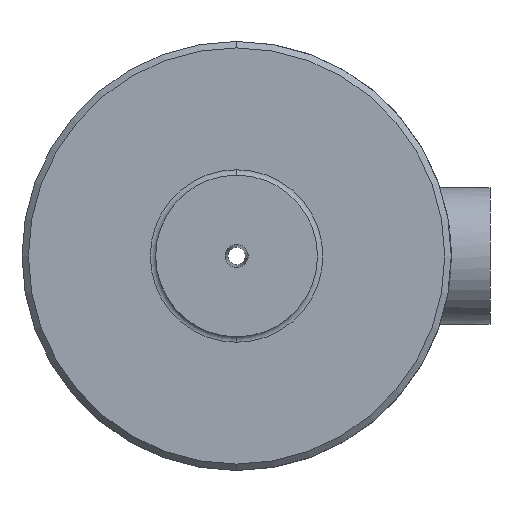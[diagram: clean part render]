
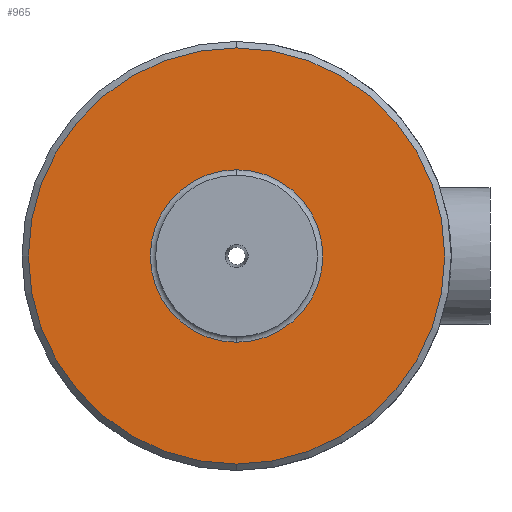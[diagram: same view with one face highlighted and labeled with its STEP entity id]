
A CAD part, front view. The second image highlights one B-rep face of the part: STEP entity #965.
In plain terms, the highlighted planar face has unit normal (0, -1, 0).
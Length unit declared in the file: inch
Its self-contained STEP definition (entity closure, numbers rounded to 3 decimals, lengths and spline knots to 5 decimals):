
#45 = VERTEX_POINT ( 'NONE', #1120 ) ;
#91 = EDGE_CURVE ( 'NONE', #93, #45, #1273, .T. ) ;
#93 = VERTEX_POINT ( 'NONE', #1278 ) ;
#147 = CARTESIAN_POINT ( 'NONE',  ( 0., -1., -0.4 ) ) ;
#152 = CARTESIAN_POINT ( 'NONE',  ( 0., -1., 0.4 ) ) ;
#158 = DIRECTION ( 'NONE',  ( 0., 0., 1. ) ) ;
#159 = DIRECTION ( 'NONE',  ( 0., 1., 0. ) ) ;
#160 = CARTESIAN_POINT ( 'NONE',  ( 0., -1., 0. ) ) ;
#161 = AXIS2_PLACEMENT_3D ( 'NONE', #160, #159, #158 ) ;
#162 = CIRCLE ( 'NONE', #161, 0.4 ) ;
#407 = DIRECTION ( 'NONE',  ( 0., 0., -1. ) ) ;
#408 = DIRECTION ( 'NONE',  ( 0., -1., 0. ) ) ;
#409 = CARTESIAN_POINT ( 'NONE',  ( 0.965, -1., 0. ) ) ;
#410 = AXIS2_PLACEMENT_3D ( 'NONE', #409, #408, #407 ) ;
#412 = PLANE ( 'NONE',  #410 ) ;
#416 = FACE_OUTER_BOUND ( 'NONE', #754, .T. ) ;
#417 = FACE_BOUND ( 'NONE', #966, .T. ) ;
#452 = DIRECTION ( 'NONE',  ( 0., 0., 1. ) ) ;
#453 = DIRECTION ( 'NONE',  ( 0., 1., 0. ) ) ;
#454 = CARTESIAN_POINT ( 'NONE',  ( 0., -1., 0. ) ) ;
#455 = AXIS2_PLACEMENT_3D ( 'NONE', #454, #453, #452 ) ;
#456 = CIRCLE ( 'NONE', #455, 0.4 ) ;
#492 = DIRECTION ( 'NONE',  ( 0., 0., 1. ) ) ;
#493 = DIRECTION ( 'NONE',  ( 0., 1., 0. ) ) ;
#494 = CARTESIAN_POINT ( 'NONE',  ( 0., -1., 0. ) ) ;
#495 = AXIS2_PLACEMENT_3D ( 'NONE', #494, #493, #492 ) ;
#496 = CIRCLE ( 'NONE', #495, 0.965 ) ;
#621 = EDGE_CURVE ( 'NONE', #628, #625, #162, .T. ) ;
#625 = VERTEX_POINT ( 'NONE', #152 ) ;
#628 = VERTEX_POINT ( 'NONE', #147 ) ;
#754 = EDGE_LOOP ( 'NONE', ( #755, #1190 ) ) ;
#755 = ORIENTED_EDGE ( 'NONE', *, *, #91, .F. ) ;
#965 = ADVANCED_FACE ( 'NONE', ( #417, #416 ), #412, .T. ) ;
#966 = EDGE_LOOP ( 'NONE', ( #967, #975 ) ) ;
#967 = ORIENTED_EDGE ( 'NONE', *, *, #976, .T. ) ;
#975 = ORIENTED_EDGE ( 'NONE', *, *, #621, .T. ) ;
#976 = EDGE_CURVE ( 'NONE', #625, #628, #456, .T. ) ;
#1031 = EDGE_CURVE ( 'NONE', #45, #93, #496, .T. ) ;
#1120 = CARTESIAN_POINT ( 'NONE',  ( 0., -1., -0.965 ) ) ;
#1190 = ORIENTED_EDGE ( 'NONE', *, *, #1031, .F. ) ;
#1273 = CIRCLE ( 'NONE', #1274, 0.965 ) ;
#1274 = AXIS2_PLACEMENT_3D ( 'NONE', #1281, #1280, #1279 ) ;
#1278 = CARTESIAN_POINT ( 'NONE',  ( 0., -1., 0.965 ) ) ;
#1279 = DIRECTION ( 'NONE',  ( 0., 0., 1. ) ) ;
#1280 = DIRECTION ( 'NONE',  ( 0., 1., 0. ) ) ;
#1281 = CARTESIAN_POINT ( 'NONE',  ( 0., -1., 0. ) ) ;
